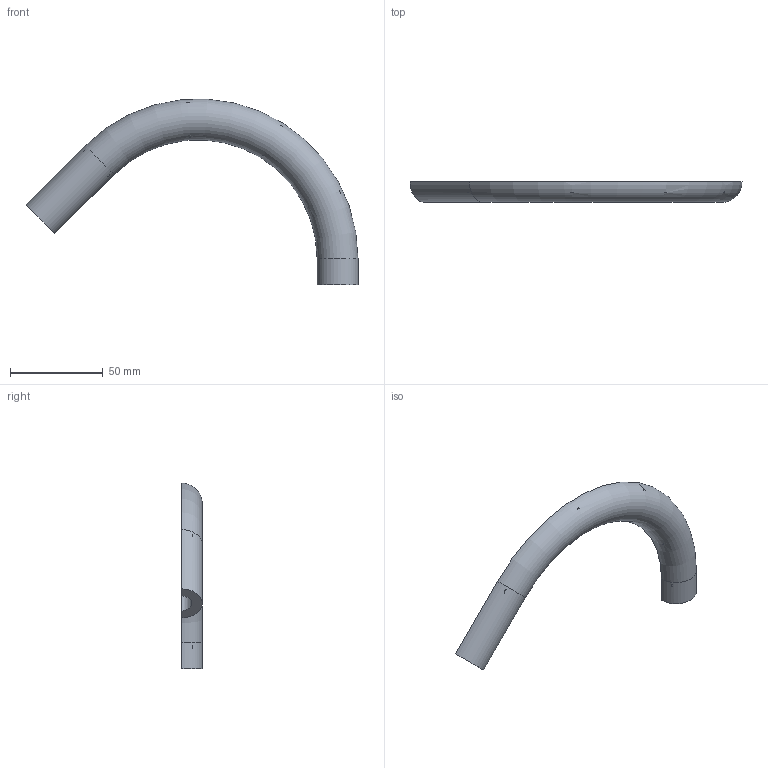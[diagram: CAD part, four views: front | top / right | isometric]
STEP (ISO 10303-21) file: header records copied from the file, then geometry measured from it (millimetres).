
FILE_DESCRIPTION(('Open CASCADE Model'),'2;1');
FILE_NAME('Open CASCADE Shape Model','2026-10-15T22:00:38',('Author'),( 'Open CASCADE'),'Open CASCADE STEP processor 7.9','Open CASCADE 7.9' ,'Unknown');
FILE_SCHEMA(('AUTOMOTIVE_DESIGN { 1 0 10303 214 1 1 1 1 }'));
Length unit declared in the file: millimetre
Products named in the file (1): Open CASCADE STEP translator 7.9 8
Bounding box: 178.63 x 11 x 99.86 mm (x, y, z)
Volume: 33373.1 mm3; surface area: 15507.1 mm2
Topology: 1 solids, 1 shells, 30 faces, 84 edges, 56 vertices
Faces by surface type: cylinder 14, plane 14, torus 2
Full cylindrical faces by diameter (mm): 2.2 x10
Entity records: 2619 total; most frequent: CARTESIAN_POINT 959, DIRECTION 292, ORIENTED_EDGE 168, PCURVE 168, DEFINITIONAL_REPRESENTATION 168, LINE 93, VECTOR 93, CIRCLE 90
